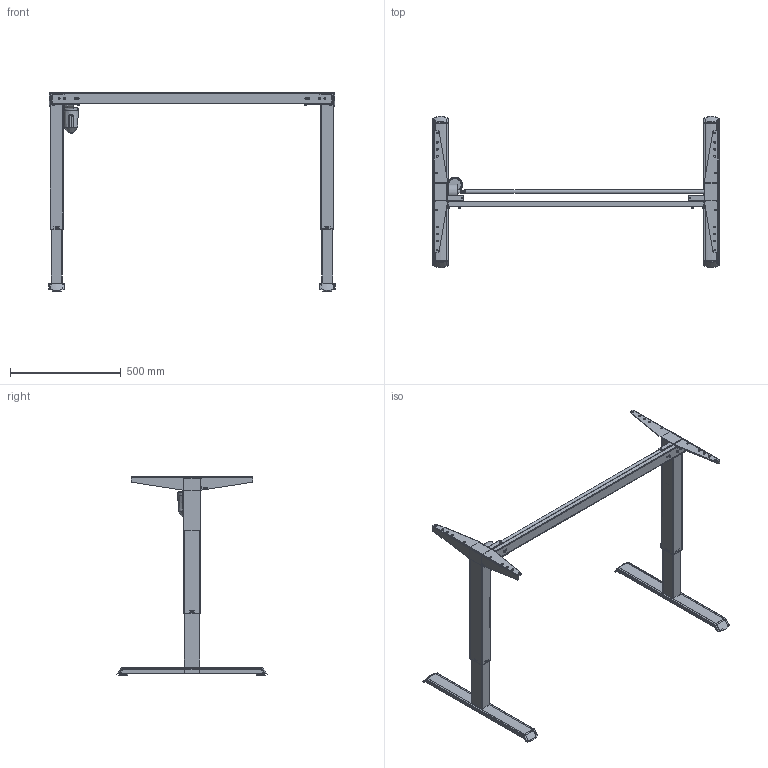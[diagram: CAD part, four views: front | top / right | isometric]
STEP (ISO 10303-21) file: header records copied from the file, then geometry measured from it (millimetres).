
FILE_DESCRIPTION (( 'STEP AP203' ), '1' );
FILE_NAME ('Tech-draw_501-33_XX129.STEP', '2019-09-25T10:15:22', ( '' ), ( '' ), 'SwSTEP 2.0', 'SolidWorks 2018', '' );
FILE_SCHEMA (( 'CONFIG_CONTROL_DESIGN' ));
Length unit declared in the file: millimetre
Products named in the file (27): 345600; 341800_silver; 332570; 347910_129; 352600; 144260_129; 340540_shell view; 341220; 345610_shell view; 351320; 324520_silver; 344820_shell view; 140920_silver; 340560; 140930_silver; 345620_shell view; 140950_silver1; 347920_129; 348720_shell view; 140850_silver1; 149070_501-33 XS129; Tech-draw_501-33_XX129; 140860_silver1; 140910_silver; 340760; 345630_shell view; 344430_silver
Assembly tree (44 placements, depth 6):
  Tech-draw_501-33_XX129
    149070_501-33 XS129
      347910_129
      144260_129
        347920_129
        340560
        341220
      140920_silver
        140860_silver1
          345610_shell view
          344820_shell view
          348720_shell view
        140930_silver
          140950_silver1
            345620_shell view
            345630_shell view
            351320
        324520_silver  x2
        341800_silver  x4
        344430_silver
        352600
      140910_silver
        140850_silver1
          345600
          344820_shell view
          340540_shell view
        140930_silver
          140950_silver1
            345620_shell view
            345630_shell view
            351320
        324520_silver  x2
        341800_silver  x4
      340760  x4
      332570  x4
Bounding box: 1296 x 683.9 x 898.46 mm (x, y, z)
Volume: 2384205.9 mm3; surface area: 2556876.9 mm2
Topology: 38 solids, 38 shells, 2758 faces, 7051 edges, 4399 vertices
Faces by surface type: plane 1435, cylinder 935, bspline 256, cone 69, torus 63
Full cylindrical faces by diameter (mm): 2.8 x4, 3 x2, 4.6 x4, 5 x4, 6 x10, 7 x8, 7.4 x4, 7.6 x4, 8 x12, 10 x8, 11.9 x2, 12 x1, 13 x2, 15 x4, 16 x2, 18 x1, 20 x2, 24 x1, 37.6 x8, 60 x1
Entity records: 72523 total; most frequent: CARTESIAN_POINT 31924, ORIENTED_EDGE 8058, DIRECTION 7389, EDGE_CURVE 4029, AXIS2_PLACEMENT_3D 2717, VERTEX_POINT 2607, LINE 1955, VECTOR 1955
